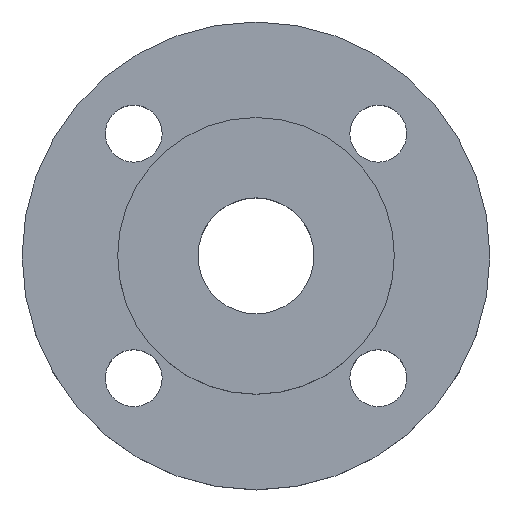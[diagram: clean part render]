
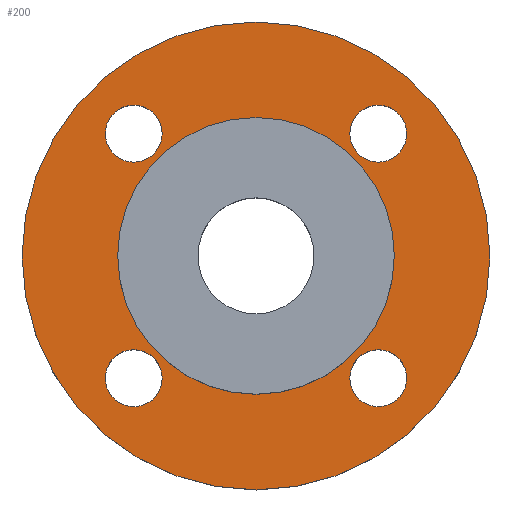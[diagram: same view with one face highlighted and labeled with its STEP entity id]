
A CAD part, top view. The second image highlights one B-rep face of the part: STEP entity #200.
In plain terms, the highlighted planar face has unit normal (0, 0, 1).
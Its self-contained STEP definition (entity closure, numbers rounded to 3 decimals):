
#15 = CIRCLE ( 'NONE', #508, 7. ) ;
#20 = AXIS2_PLACEMENT_3D ( 'NONE', #203, #206, #207 ) ;
#42 = CARTESIAN_POINT ( 'NONE',  ( 57.5, 0., 0. ) ) ;
#52 = DIRECTION ( 'NONE',  ( 0., 0., -1. ) ) ;
#63 = CIRCLE ( 'NONE', #712, 7. ) ;
#73 = EDGE_CURVE ( 'NONE', #810, #817, #222, .T. ) ;
#76 = DIRECTION ( 'NONE',  ( -1., 0., 0. ) ) ;
#81 = DIRECTION ( 'NONE',  ( 0., 0., -1. ) ) ;
#85 = DIRECTION ( 'NONE',  ( -1., 0., 0. ) ) ;
#87 = DIRECTION ( 'NONE',  ( 0., 0., -1. ) ) ;
#91 = CARTESIAN_POINT ( 'NONE',  ( 30.052, -30.052, 0. ) ) ;
#94 = CIRCLE ( 'NONE', #470, 7. ) ;
#104 = CARTESIAN_POINT ( 'NONE',  ( 0., 0., 0. ) ) ;
#105 = CARTESIAN_POINT ( 'NONE',  ( -30.052, -30.052, 0. ) ) ;
#118 = DIRECTION ( 'NONE',  ( 0., 0., -1. ) ) ;
#125 = DIRECTION ( 'NONE',  ( -1., 0., 0. ) ) ;
#131 = CARTESIAN_POINT ( 'NONE',  ( -37.052, -30.052, 0. ) ) ;
#132 = CARTESIAN_POINT ( 'NONE',  ( 0., 0., 0. ) ) ;
#142 = CIRCLE ( 'NONE', #180, 7. ) ;
#145 = CARTESIAN_POINT ( 'NONE',  ( -57.5, 0., 0. ) ) ;
#148 = DIRECTION ( 'NONE',  ( 0., 0., -1. ) ) ;
#151 = EDGE_CURVE ( 'NONE', #658, #721, #63, .T. ) ;
#154 = DIRECTION ( 'NONE',  ( 0., 0., -1. ) ) ;
#165 = CIRCLE ( 'NONE', #20, 57.5 ) ;
#166 = CARTESIAN_POINT ( 'NONE',  ( 30.052, 30.052, 0. ) ) ;
#167 = DIRECTION ( 'NONE',  ( -1., 0., 0. ) ) ;
#174 = CIRCLE ( 'NONE', #313, 7. ) ;
#178 = DIRECTION ( 'NONE',  ( -1., 0., 0. ) ) ;
#180 = AXIS2_PLACEMENT_3D ( 'NONE', #105, #87, #85 ) ;
#200 = ADVANCED_FACE ( 'NONE', ( #890, #891, #892, #893, #894, #895 ), #897, .T. ) ;
#203 = CARTESIAN_POINT ( 'NONE',  ( 0., 0., 0. ) ) ;
#206 = DIRECTION ( 'NONE',  ( 0., 0., 1. ) ) ;
#207 = DIRECTION ( 'NONE',  ( 1., 0., 0. ) ) ;
#219 = CARTESIAN_POINT ( 'NONE',  ( 28.5, 0., 0. ) ) ;
#222 = CIRCLE ( 'NONE', #575, 7. ) ;
#229 = EDGE_CURVE ( 'NONE', #807, #578, #532, .T. ) ;
#242 = DIRECTION ( 'NONE',  ( 1., 0., 0. ) ) ;
#243 = AXIS2_PLACEMENT_3D ( 'NONE', #166, #52, #76 ) ;
#246 = CIRCLE ( 'NONE', #243, 7. ) ;
#248 = CIRCLE ( 'NONE', #272, 28.5 ) ;
#251 = EDGE_CURVE ( 'NONE', #726, #633, #165, .T. ) ;
#270 = DIRECTION ( 'NONE',  ( 0., 0., 1. ) ) ;
#272 = AXIS2_PLACEMENT_3D ( 'NONE', #132, #154, #167 ) ;
#279 = CARTESIAN_POINT ( 'NONE',  ( 30.052, 30.052, 0. ) ) ;
#281 = DIRECTION ( 'NONE',  ( -1., 0., 0. ) ) ;
#293 = DIRECTION ( 'NONE',  ( 0., 0., -1. ) ) ;
#313 = AXIS2_PLACEMENT_3D ( 'NONE', #910, #293, #476 ) ;
#316 = CARTESIAN_POINT ( 'NONE',  ( 0., 0., 0. ) ) ;
#320 = AXIS2_PLACEMENT_3D ( 'NONE', #316, #270, #847 ) ;
#383 = EDGE_CURVE ( 'NONE', #578, #807, #248, .T. ) ;
#396 = EDGE_CURVE ( 'NONE', #808, #801, #246, .T. ) ;
#411 = CARTESIAN_POINT ( 'NONE',  ( 23.052, 30.052, 0. ) ) ;
#413 = CARTESIAN_POINT ( 'NONE',  ( 23.052, -30.052, 0. ) ) ;
#423 = EDGE_CURVE ( 'NONE', #801, #808, #94, .T. ) ;
#427 = CARTESIAN_POINT ( 'NONE',  ( -30.052, 30.052, 0. ) ) ;
#432 = EDGE_CURVE ( 'NONE', #566, #792, #142, .T. ) ;
#436 = EDGE_CURVE ( 'NONE', #721, #658, #15, .T. ) ;
#438 = CARTESIAN_POINT ( 'NONE',  ( -28.5, 0., 0. ) ) ;
#456 = EDGE_LOOP ( 'NONE', ( #666, #667 ) ) ;
#465 = EDGE_CURVE ( 'NONE', #817, #810, #912, .T. ) ;
#470 = AXIS2_PLACEMENT_3D ( 'NONE', #279, #81, #281 ) ;
#473 = EDGE_CURVE ( 'NONE', #792, #566, #174, .T. ) ;
#476 = DIRECTION ( 'NONE',  ( -1., 0., 0. ) ) ;
#482 = CARTESIAN_POINT ( 'NONE',  ( -23.052, -30.052, 0. ) ) ;
#508 = AXIS2_PLACEMENT_3D ( 'NONE', #91, #148, #903 ) ;
#515 = AXIS2_PLACEMENT_3D ( 'NONE', #898, #913, #242 ) ;
#527 = CIRCLE ( 'NONE', #320, 57.5 ) ;
#532 = CIRCLE ( 'NONE', #604, 28.5 ) ;
#533 = CARTESIAN_POINT ( 'NONE',  ( -23.052, 30.052, 0. ) ) ;
#546 = ORIENTED_EDGE ( 'NONE', *, *, #73, .T. ) ;
#566 = VERTEX_POINT ( 'NONE', #482 ) ;
#567 = EDGE_LOOP ( 'NONE', ( #669, #672 ) ) ;
#575 = AXIS2_PLACEMENT_3D ( 'NONE', #852, #853, #854 ) ;
#578 = VERTEX_POINT ( 'NONE', #438 ) ;
#588 = EDGE_LOOP ( 'NONE', ( #664, #546 ) ) ;
#591 = CARTESIAN_POINT ( 'NONE',  ( 37.052, -30.052, 0. ) ) ;
#604 = AXIS2_PLACEMENT_3D ( 'NONE', #104, #118, #125 ) ;
#612 = CARTESIAN_POINT ( 'NONE',  ( -37.052, 30.052, 0. ) ) ;
#627 = EDGE_LOOP ( 'NONE', ( #650, #663 ) ) ;
#633 = VERTEX_POINT ( 'NONE', #42 ) ;
#636 = DIRECTION ( 'NONE',  ( 0., 0., -1. ) ) ;
#644 = EDGE_CURVE ( 'NONE', #633, #726, #527, .T. ) ;
#648 = ORIENTED_EDGE ( 'NONE', *, *, #436, .T. ) ;
#649 = ORIENTED_EDGE ( 'NONE', *, *, #151, .T. ) ;
#650 = ORIENTED_EDGE ( 'NONE', *, *, #432, .T. ) ;
#651 = ORIENTED_EDGE ( 'NONE', *, *, #396, .T. ) ;
#658 = VERTEX_POINT ( 'NONE', #413 ) ;
#663 = ORIENTED_EDGE ( 'NONE', *, *, #473, .T. ) ;
#664 = ORIENTED_EDGE ( 'NONE', *, *, #465, .T. ) ;
#665 = ORIENTED_EDGE ( 'NONE', *, *, #423, .T. ) ;
#666 = ORIENTED_EDGE ( 'NONE', *, *, #229, .T. ) ;
#667 = ORIENTED_EDGE ( 'NONE', *, *, #383, .T. ) ;
#669 = ORIENTED_EDGE ( 'NONE', *, *, #644, .T. ) ;
#670 = EDGE_LOOP ( 'NONE', ( #648, #649 ) ) ;
#672 = ORIENTED_EDGE ( 'NONE', *, *, #251, .T. ) ;
#687 = AXIS2_PLACEMENT_3D ( 'NONE', #427, #636, #178 ) ;
#712 = AXIS2_PLACEMENT_3D ( 'NONE', #879, #881, #882 ) ;
#717 = EDGE_LOOP ( 'NONE', ( #651, #665 ) ) ;
#721 = VERTEX_POINT ( 'NONE', #591 ) ;
#726 = VERTEX_POINT ( 'NONE', #145 ) ;
#746 = CARTESIAN_POINT ( 'NONE',  ( 37.052, 30.052, 0. ) ) ;
#792 = VERTEX_POINT ( 'NONE', #131 ) ;
#801 = VERTEX_POINT ( 'NONE', #411 ) ;
#807 = VERTEX_POINT ( 'NONE', #219 ) ;
#808 = VERTEX_POINT ( 'NONE', #746 ) ;
#810 = VERTEX_POINT ( 'NONE', #612 ) ;
#817 = VERTEX_POINT ( 'NONE', #533 ) ;
#847 = DIRECTION ( 'NONE',  ( 1., 0., 0. ) ) ;
#852 = CARTESIAN_POINT ( 'NONE',  ( -30.052, 30.052, 0. ) ) ;
#853 = DIRECTION ( 'NONE',  ( 0., 0., -1. ) ) ;
#854 = DIRECTION ( 'NONE',  ( -1., 0., 0. ) ) ;
#879 = CARTESIAN_POINT ( 'NONE',  ( 30.052, -30.052, 0. ) ) ;
#881 = DIRECTION ( 'NONE',  ( 0., 0., -1. ) ) ;
#882 = DIRECTION ( 'NONE',  ( -1., 0., 0. ) ) ;
#890 = FACE_BOUND ( 'NONE', #670, .T. ) ;
#891 = FACE_BOUND ( 'NONE', #627, .T. ) ;
#892 = FACE_BOUND ( 'NONE', #588, .T. ) ;
#893 = FACE_BOUND ( 'NONE', #717, .T. ) ;
#894 = FACE_BOUND ( 'NONE', #456, .T. ) ;
#895 = FACE_OUTER_BOUND ( 'NONE', #567, .T. ) ;
#897 = PLANE ( 'NONE',  #515 ) ;
#898 = CARTESIAN_POINT ( 'NONE',  ( 0., 0., 0. ) ) ;
#903 = DIRECTION ( 'NONE',  ( -1., 0., 0. ) ) ;
#910 = CARTESIAN_POINT ( 'NONE',  ( -30.052, -30.052, 0. ) ) ;
#912 = CIRCLE ( 'NONE', #687, 7. ) ;
#913 = DIRECTION ( 'NONE',  ( 0., 0., 1. ) ) ;
